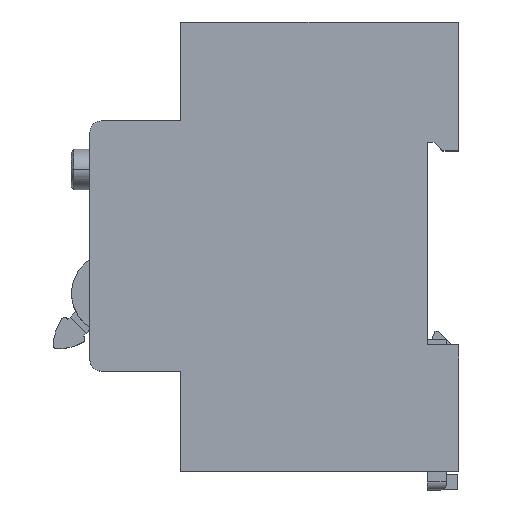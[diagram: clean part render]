
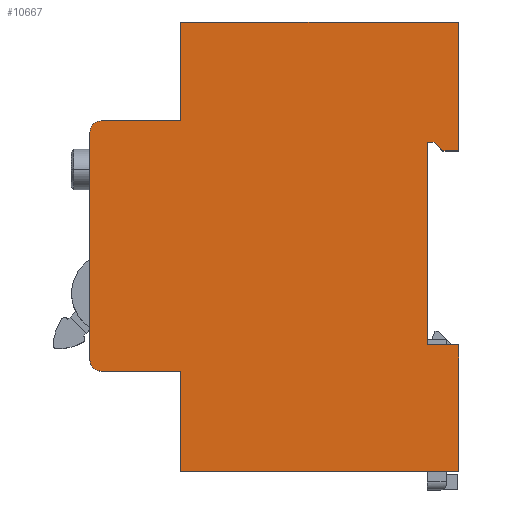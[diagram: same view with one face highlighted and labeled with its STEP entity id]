
A CAD part, top view. The second image highlights one B-rep face of the part: STEP entity #10667.
In plain terms, the highlighted planar face has unit normal (0, 0, 1).
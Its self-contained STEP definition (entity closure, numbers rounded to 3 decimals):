
#59 = CARTESIAN_POINT ( 'NONE',  ( 45.6, 59.2, 36. ) ) ;
#101 = CARTESIAN_POINT ( 'NONE',  ( 44.4, 57.6, 36. ) ) ;
#162 = EDGE_LOOP ( 'NONE', ( #11879, #4983, #8711, #8932, #5086, #8919, #6688, #7420, #3602, #12115, #2555, #6792, #8437, #11221, #12997, #12649 ) ) ;
#179 = CARTESIAN_POINT ( 'NONE',  ( -16.3, 61., 36. ) ) ;
#261 = DIRECTION ( 'NONE',  ( -1., 0., 0. ) ) ;
#395 = LINE ( 'NONE', #5461, #4303 ) ;
#413 = VERTEX_POINT ( 'NONE', #7067 ) ;
#472 = DIRECTION ( 'NONE',  ( 0., 0., 1. ) ) ;
#492 = LINE ( 'NONE', #10960, #12688 ) ;
#714 = DIRECTION ( 'NONE',  ( 0., -1., 0. ) ) ;
#785 = VECTOR ( 'NONE', #7565, 1000. ) ;
#979 = EDGE_CURVE ( 'NONE', #5233, #413, #6079, .T. ) ;
#1100 = CARTESIAN_POINT ( 'NONE',  ( 45.6, 59.2, 36. ) ) ;
#1121 = VECTOR ( 'NONE', #1284, 1000. ) ;
#1151 = EDGE_CURVE ( 'NONE', #7112, #6982, #2757, .T. ) ;
#1189 = CIRCLE ( 'NONE', #11745, 2. ) ;
#1284 = DIRECTION ( 'NONE',  ( -1., 0., 0. ) ) ;
#1300 = DIRECTION ( 'NONE',  ( 0., 1., 0. ) ) ;
#1372 = FACE_OUTER_BOUND ( 'NONE', #162, .T. ) ;
#1552 = CARTESIAN_POINT ( 'NONE',  ( -14.3, 61., 36. ) ) ;
#1614 = CARTESIAN_POINT ( 'NONE',  ( 47.2, 57.6, 36. ) ) ;
#1729 = CARTESIAN_POINT ( 'NONE',  ( -16.3, 20., 36. ) ) ;
#1786 = VECTOR ( 'NONE', #12718, 1000. ) ;
#1798 = VECTOR ( 'NONE', #7222, 1000. ) ;
#1807 = CARTESIAN_POINT ( 'NONE',  ( 0., 63., 36. ) ) ;
#2011 = EDGE_CURVE ( 'NONE', #413, #7051, #3473, .T. ) ;
#2163 = EDGE_CURVE ( 'NONE', #13332, #12982, #4564, .T. ) ;
#2371 = CARTESIAN_POINT ( 'NONE',  ( -14.3, 18., 36. ) ) ;
#2532 = VECTOR ( 'NONE', #7932, 1000. ) ;
#2555 = ORIENTED_EDGE ( 'NONE', *, *, #11677, .T. ) ;
#2757 = LINE ( 'NONE', #12951, #2842 ) ;
#2842 = VECTOR ( 'NONE', #3708, 1000. ) ;
#3059 = LINE ( 'NONE', #8945, #2532 ) ;
#3444 = LINE ( 'NONE', #4397, #4606 ) ;
#3473 = LINE ( 'NONE', #101, #1786 ) ;
#3518 = VECTOR ( 'NONE', #4636, 1000. ) ;
#3602 = ORIENTED_EDGE ( 'NONE', *, *, #11207, .T. ) ;
#3708 = DIRECTION ( 'NONE',  ( -1., 0., 0. ) ) ;
#4148 = CARTESIAN_POINT ( 'NONE',  ( 0., 18., 36. ) ) ;
#4248 = VECTOR ( 'NONE', #261, 1000. ) ;
#4303 = VECTOR ( 'NONE', #8570, 1000. ) ;
#4378 = AXIS2_PLACEMENT_3D ( 'NONE', #1552, #472, #6764 ) ;
#4393 = CARTESIAN_POINT ( 'NONE',  ( 44.4, 59.2, 36. ) ) ;
#4397 = CARTESIAN_POINT ( 'NONE',  ( 50., 22.7, 36. ) ) ;
#4511 = EDGE_CURVE ( 'NONE', #6130, #10677, #3444, .T. ) ;
#4531 = DIRECTION ( 'NONE',  ( -1., 0., 0. ) ) ;
#4564 = LINE ( 'NONE', #8875, #3518 ) ;
#4606 = VECTOR ( 'NONE', #7558, 1000. ) ;
#4636 = DIRECTION ( 'NONE',  ( 0., 1., 0. ) ) ;
#4983 = ORIENTED_EDGE ( 'NONE', *, *, #979, .F. ) ;
#5086 = ORIENTED_EDGE ( 'NONE', *, *, #13247, .F. ) ;
#5233 = VERTEX_POINT ( 'NONE', #1100 ) ;
#5285 = CARTESIAN_POINT ( 'NONE',  ( 0., 0., 36. ) ) ;
#5461 = CARTESIAN_POINT ( 'NONE',  ( 44.4, 22.7, 36. ) ) ;
#5536 = CARTESIAN_POINT ( 'NONE',  ( -14.3, 20., 36. ) ) ;
#5756 = VECTOR ( 'NONE', #1300, 1000. ) ;
#5892 = DIRECTION ( 'NONE',  ( 0., 0., -1. ) ) ;
#6005 = CARTESIAN_POINT ( 'NONE',  ( 0., 80.8, 36. ) ) ;
#6079 = LINE ( 'NONE', #4393, #1121 ) ;
#6105 = EDGE_CURVE ( 'NONE', #9579, #8635, #12563, .T. ) ;
#6130 = VERTEX_POINT ( 'NONE', #11826 ) ;
#6422 = CARTESIAN_POINT ( 'NONE',  ( 50., 80.8, 36. ) ) ;
#6446 = VERTEX_POINT ( 'NONE', #2371 ) ;
#6464 = EDGE_CURVE ( 'NONE', #8991, #7291, #9866, .T. ) ;
#6688 = ORIENTED_EDGE ( 'NONE', *, *, #8849, .F. ) ;
#6764 = DIRECTION ( 'NONE',  ( -1., 0., 0. ) ) ;
#6792 = ORIENTED_EDGE ( 'NONE', *, *, #7544, .F. ) ;
#6872 = VERTEX_POINT ( 'NONE', #6422 ) ;
#6908 = EDGE_CURVE ( 'NONE', #10677, #9579, #8371, .T. ) ;
#6911 = PLANE ( 'NONE',  #11509 ) ;
#6982 = VERTEX_POINT ( 'NONE', #1614 ) ;
#7051 = VERTEX_POINT ( 'NONE', #10664 ) ;
#7067 = CARTESIAN_POINT ( 'NONE',  ( 44.4, 59.2, 36. ) ) ;
#7112 = VERTEX_POINT ( 'NONE', #12745 ) ;
#7157 = LINE ( 'NONE', #59, #7320 ) ;
#7222 = DIRECTION ( 'NONE',  ( 1., 0., 0. ) ) ;
#7291 = VERTEX_POINT ( 'NONE', #1807 ) ;
#7320 = VECTOR ( 'NONE', #12214, 1000. ) ;
#7420 = ORIENTED_EDGE ( 'NONE', *, *, #6464, .F. ) ;
#7544 = EDGE_CURVE ( 'NONE', #8635, #6446, #3059, .T. ) ;
#7558 = DIRECTION ( 'NONE',  ( 0., -1., 0. ) ) ;
#7565 = DIRECTION ( 'NONE',  ( 1., 0., 0. ) ) ;
#7920 = DIRECTION ( 'NONE',  ( 0., 1., 0. ) ) ;
#7932 = DIRECTION ( 'NONE',  ( -1., 0., 0. ) ) ;
#7969 = CARTESIAN_POINT ( 'NONE',  ( 0., 0., 36. ) ) ;
#8371 = LINE ( 'NONE', #12544, #4248 ) ;
#8437 = ORIENTED_EDGE ( 'NONE', *, *, #6105, .F. ) ;
#8570 = DIRECTION ( 'NONE',  ( 1., 0., 0. ) ) ;
#8635 = VERTEX_POINT ( 'NONE', #4148 ) ;
#8711 = ORIENTED_EDGE ( 'NONE', *, *, #9726, .F. ) ;
#8722 = CARTESIAN_POINT ( 'NONE',  ( -16.3, 63., 36. ) ) ;
#8849 = EDGE_CURVE ( 'NONE', #7291, #11005, #492, .T. ) ;
#8875 = CARTESIAN_POINT ( 'NONE',  ( -16.3, 18., 36. ) ) ;
#8919 = ORIENTED_EDGE ( 'NONE', *, *, #11405, .F. ) ;
#8932 = ORIENTED_EDGE ( 'NONE', *, *, #1151, .F. ) ;
#8945 = CARTESIAN_POINT ( 'NONE',  ( 0., 18., 36. ) ) ;
#8991 = VERTEX_POINT ( 'NONE', #11352 ) ;
#8992 = DIRECTION ( 'NONE',  ( -1., 0., 0. ) ) ;
#9018 = CARTESIAN_POINT ( 'NONE',  ( 50., 80.8, 36. ) ) ;
#9579 = VERTEX_POINT ( 'NONE', #7969 ) ;
#9726 = EDGE_CURVE ( 'NONE', #6982, #5233, #7157, .T. ) ;
#9828 = EDGE_CURVE ( 'NONE', #7051, #6130, #395, .T. ) ;
#9866 = LINE ( 'NONE', #8722, #785 ) ;
#9881 = CARTESIAN_POINT ( 'NONE',  ( 50., 0., 36. ) ) ;
#9964 = VECTOR ( 'NONE', #714, 1000. ) ;
#10180 = LINE ( 'NONE', #6005, #1798 ) ;
#10664 = CARTESIAN_POINT ( 'NONE',  ( 44.4, 22.7, 36. ) ) ;
#10667 = ADVANCED_FACE ( 'NONE', ( #1372 ), #6911, .F. ) ;
#10677 = VERTEX_POINT ( 'NONE', #9881 ) ;
#10960 = CARTESIAN_POINT ( 'NONE',  ( 0., 63., 36. ) ) ;
#11005 = VERTEX_POINT ( 'NONE', #12490 ) ;
#11110 = LINE ( 'NONE', #9018, #9964 ) ;
#11207 = EDGE_CURVE ( 'NONE', #8991, #12982, #12558, .T. ) ;
#11221 = ORIENTED_EDGE ( 'NONE', *, *, #6908, .F. ) ;
#11352 = CARTESIAN_POINT ( 'NONE',  ( -14.3, 63., 36. ) ) ;
#11405 = EDGE_CURVE ( 'NONE', #11005, #6872, #10180, .T. ) ;
#11509 = AXIS2_PLACEMENT_3D ( 'NONE', #12911, #5892, #8992 ) ;
#11546 = DIRECTION ( 'NONE',  ( 0., 0., 1. ) ) ;
#11677 = EDGE_CURVE ( 'NONE', #13332, #6446, #1189, .T. ) ;
#11745 = AXIS2_PLACEMENT_3D ( 'NONE', #5536, #11546, #4531 ) ;
#11826 = CARTESIAN_POINT ( 'NONE',  ( 50., 22.7, 36. ) ) ;
#11879 = ORIENTED_EDGE ( 'NONE', *, *, #2011, .F. ) ;
#12115 = ORIENTED_EDGE ( 'NONE', *, *, #2163, .F. ) ;
#12214 = DIRECTION ( 'NONE',  ( -0.707, 0.707, 0. ) ) ;
#12490 = CARTESIAN_POINT ( 'NONE',  ( 0., 80.8, 36. ) ) ;
#12544 = CARTESIAN_POINT ( 'NONE',  ( 50., 0., 36. ) ) ;
#12558 = CIRCLE ( 'NONE', #4378, 2. ) ;
#12563 = LINE ( 'NONE', #5285, #5756 ) ;
#12649 = ORIENTED_EDGE ( 'NONE', *, *, #9828, .F. ) ;
#12688 = VECTOR ( 'NONE', #7920, 1000. ) ;
#12718 = DIRECTION ( 'NONE',  ( 0., -1., 0. ) ) ;
#12745 = CARTESIAN_POINT ( 'NONE',  ( 50., 57.6, 36. ) ) ;
#12911 = CARTESIAN_POINT ( 'NONE',  ( 0., 0., 36. ) ) ;
#12951 = CARTESIAN_POINT ( 'NONE',  ( 50., 57.6, 36. ) ) ;
#12982 = VERTEX_POINT ( 'NONE', #179 ) ;
#12997 = ORIENTED_EDGE ( 'NONE', *, *, #4511, .F. ) ;
#13247 = EDGE_CURVE ( 'NONE', #6872, #7112, #11110, .T. ) ;
#13332 = VERTEX_POINT ( 'NONE', #1729 ) ;
